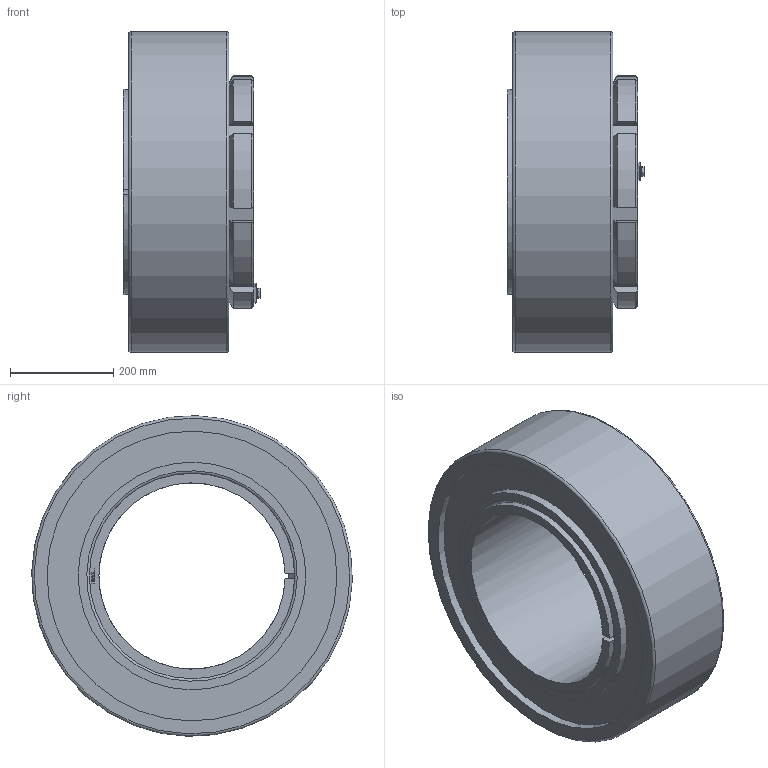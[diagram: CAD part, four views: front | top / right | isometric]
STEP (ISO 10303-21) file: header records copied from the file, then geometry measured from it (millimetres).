
FILE_DESCRIPTION( ( 'STEP AP203' ), ' ' );
FILE_NAME( 'p:/temp/worker_124/4676_1548/app_89_02016102820181510106377192d056f_000000_00_00_000000/format_0/BGL H 3176 TL+23176K.stp', '2016-10-28T18:18:18', ( '' ), ( '' ), ' ', 'PARTsolutions', ' ' );
FILE_SCHEMA( ( 'CONFIG_CONTROL_DESIGN' ) );
Length unit declared in the file: millimetre
Products named in the file (6): BGL H 3176 TL+23176K; _BGLH3176TLB; _BGL HM 3076; _BGLH3176TL+H-23176K; _BGL MS 3076-BGL MS 3080part; _BGL MS 3076-BGL MS 3080HHS
Assembly tree (5 placements, depth 2):
  BGL H 3176 TL+23176K
    _BGLH3176TLB
    _BGL HM 3076
    _BGLH3176TL+H-23176K
    _BGL MS 3076-BGL MS 3080part
    _BGL MS 3076-BGL MS 3080HHS
Bounding box: 265.36 x 619.79 x 619.79 mm (x, y, z)
Volume: 38462718.8 mm3; surface area: 1915050.4 mm2
Topology: 5 solids, 5 shells, 351 faces, 899 edges, 589 vertices
Faces by surface type: plane 230, cylinder 79, cone 38, torus 4
Full cylindrical faces by diameter (mm): 10 x9, 12 x1, 18.1 x1, 375 x1, 440 x2, 560 x2, 620 x1
Entity records: 10770 total; most frequent: CARTESIAN_POINT 2112, DIRECTION 1729, ORIENTED_EDGE 1726, EDGE_CURVE 863, VERTEX_POINT 586, AXIS2_PLACEMENT_3D 577, LINE 575, VECTOR 575
